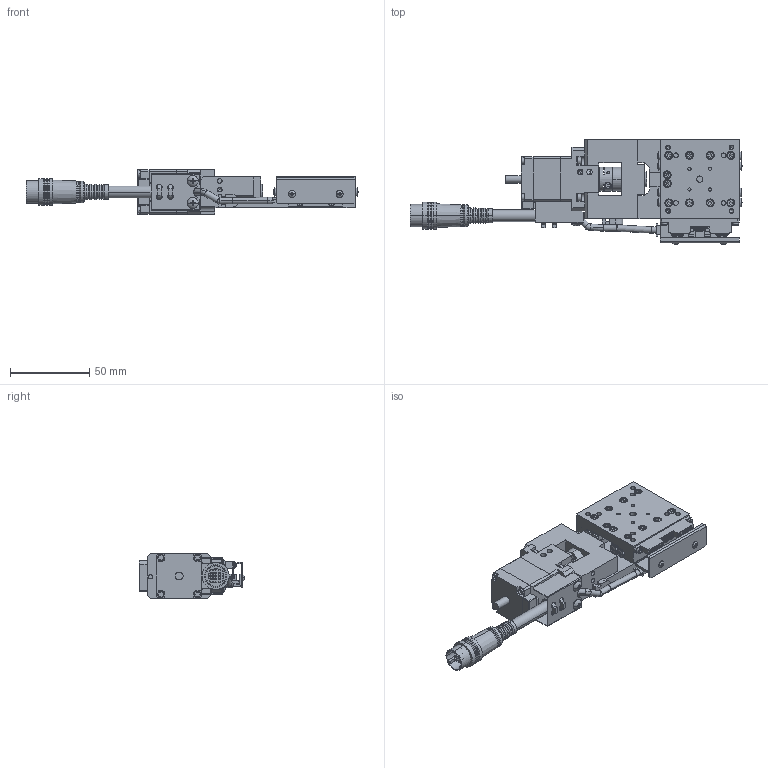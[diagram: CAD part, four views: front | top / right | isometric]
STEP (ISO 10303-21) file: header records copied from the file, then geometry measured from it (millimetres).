
FILE_DESCRIPTION (( 'STEP AP203' ), '1' );
FILE_NAME ('XA05A-R102.STEP', '2019-02-20T07:48:47', ( '' ), ( '' ), 'SwSTEP 2.0', 'SolidWorks 2018', '' );
FILE_SCHEMA (( 'CONFIG_CONTROL_DESIGN' ));
Length unit declared in the file: millimetre
Products named in the file (6): base; base-Part-2; base-Part-3; table; base-Part-1; XA05A-R102
Assembly tree (5 placements, depth 3):
  XA05A-R102
    base
      base-Part-1
      base-Part-2
      base-Part-3
    table
Bounding box: 209.09 x 66.18 x 28 mm (x, y, z)
Volume: 121597.9 mm3; surface area: 55082.7 mm2
Topology: 4 solids, 4 shells, 2183 faces, 5404 edges, 3299 vertices
Faces by surface type: plane 1280, cylinder 513, cone 250, torus 106, sphere 34
Entity records: 65082 total; most frequent: CARTESIAN_POINT 11732, DIRECTION 11534, ORIENTED_EDGE 10620, EDGE_CURVE 5310, AXIS2_PLACEMENT_3D 4141, VERTEX_POINT 3293, LINE 3252, VECTOR 3252
